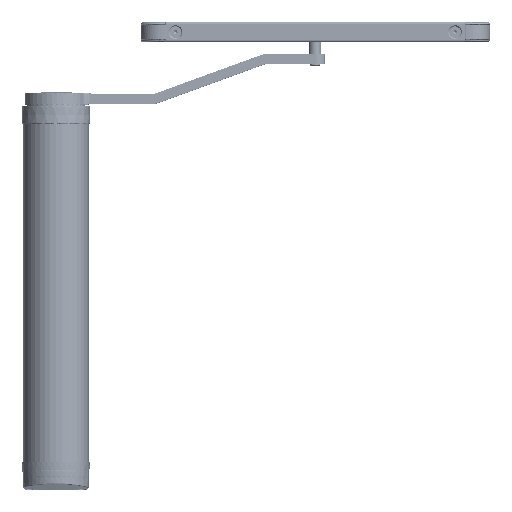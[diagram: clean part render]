
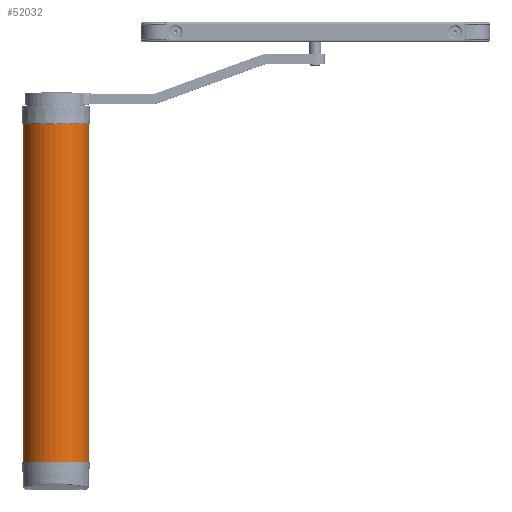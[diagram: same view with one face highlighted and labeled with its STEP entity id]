
A CAD part, top view. The second image highlights one B-rep face of the part: STEP entity #52032.
In plain terms, the highlighted cylindrical face has radius 32.75 mm (diameter 65.5 mm), a partial arc.
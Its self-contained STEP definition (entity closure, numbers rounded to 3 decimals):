
#2281 = EDGE_CURVE ( 'NONE', #67220, #53840, #69615, .T. ) ;
#3895 = DIRECTION ( 'NONE',  ( 1., 0., 0. ) ) ;
#4988 = EDGE_CURVE ( 'NONE', #26758, #31861, #54759, .T. ) ;
#6273 = ORIENTED_EDGE ( 'NONE', *, *, #16216, .T. ) ;
#12513 = EDGE_CURVE ( 'NONE', #31861, #67220, #54401, .T. ) ;
#13620 = CYLINDRICAL_SURFACE ( 'NONE', #63387, 32.75 ) ;
#16216 = EDGE_CURVE ( 'NONE', #53840, #26758, #24407, .T. ) ;
#19876 = ORIENTED_EDGE ( 'NONE', *, *, #4988, .T. ) ;
#22715 = CARTESIAN_POINT ( 'NONE',  ( 0.25, -0.009, 171.5 ) ) ;
#24407 = CIRCLE ( 'NONE', #71184, 32.75 ) ;
#24930 = CARTESIAN_POINT ( 'NONE',  ( 0.25, -0.009, -357.768 ) ) ;
#26758 = VERTEX_POINT ( 'NONE', #72988 ) ;
#30330 = AXIS2_PLACEMENT_3D ( 'NONE', #22715, #67456, #3895 ) ;
#31861 = VERTEX_POINT ( 'NONE', #35185 ) ;
#31987 = CARTESIAN_POINT ( 'NONE',  ( -32.5, -0.009, -357.768 ) ) ;
#34994 = ORIENTED_EDGE ( 'NONE', *, *, #2281, .T. ) ;
#35185 = CARTESIAN_POINT ( 'NONE',  ( 33., -0.009, 171.5 ) ) ;
#38243 = DIRECTION ( 'NONE',  ( 0., 0., -1. ) ) ;
#38304 = DIRECTION ( 'NONE',  ( 0., 0., 1. ) ) ;
#39120 = DIRECTION ( 'NONE',  ( 1., 0., 0. ) ) ;
#41554 = ORIENTED_EDGE ( 'NONE', *, *, #12513, .T. ) ;
#45159 = CARTESIAN_POINT ( 'NONE',  ( -32.5, -0.009, 171.5 ) ) ;
#52032 = ADVANCED_FACE ( 'NONE', ( #57566 ), #13620, .T. ) ;
#53840 = VERTEX_POINT ( 'NONE', #78507 ) ;
#54401 = CIRCLE ( 'NONE', #30330, 32.75 ) ;
#54759 = LINE ( 'NONE', #80266, #68598 ) ;
#55939 = CARTESIAN_POINT ( 'NONE',  ( 0.25, -0.009, -171.5 ) ) ;
#56360 = DIRECTION ( 'NONE',  ( 0., 0., 1. ) ) ;
#57566 = FACE_OUTER_BOUND ( 'NONE', #78594, .T. ) ;
#61834 = DIRECTION ( 'NONE',  ( 0., 0., 1. ) ) ;
#63387 = AXIS2_PLACEMENT_3D ( 'NONE', #24930, #38304, #39120 ) ;
#67220 = VERTEX_POINT ( 'NONE', #45159 ) ;
#67456 = DIRECTION ( 'NONE',  ( 0., 0., -1. ) ) ;
#68598 = VECTOR ( 'NONE', #61834, 1000. ) ;
#69615 = LINE ( 'NONE', #31987, #79076 ) ;
#71184 = AXIS2_PLACEMENT_3D ( 'NONE', #55939, #56360, #74339 ) ;
#72988 = CARTESIAN_POINT ( 'NONE',  ( 33., -0.009, -171.5 ) ) ;
#74339 = DIRECTION ( 'NONE',  ( 1., 0., 0. ) ) ;
#78507 = CARTESIAN_POINT ( 'NONE',  ( -32.5, -0.009, -171.5 ) ) ;
#78594 = EDGE_LOOP ( 'NONE', ( #6273, #19876, #41554, #34994 ) ) ;
#79076 = VECTOR ( 'NONE', #38243, 1000. ) ;
#80266 = CARTESIAN_POINT ( 'NONE',  ( 33., -0.009, -357.768 ) ) ;
